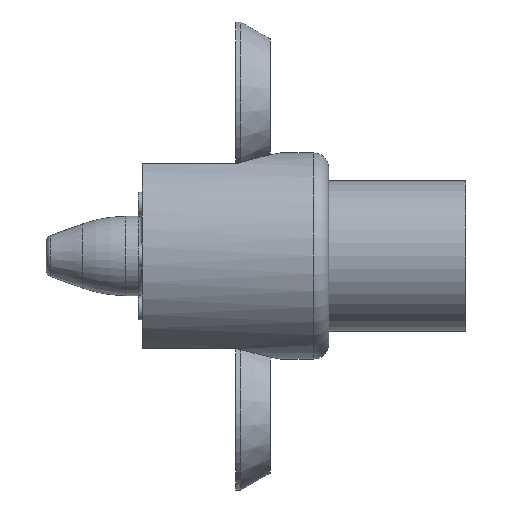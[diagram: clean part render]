
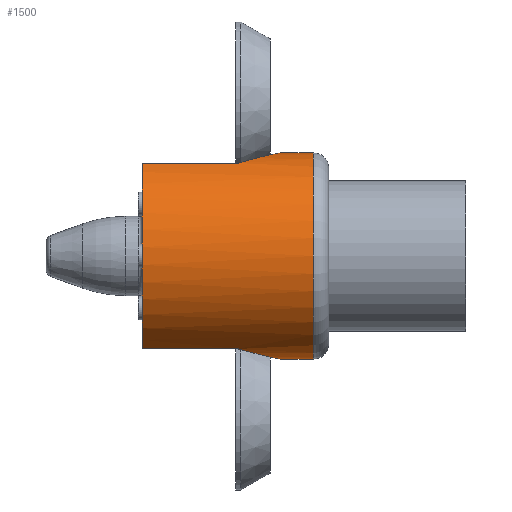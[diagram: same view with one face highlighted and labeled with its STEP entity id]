
A CAD part, left-side view. The second image highlights one B-rep face of the part: STEP entity #1500.
In plain terms, the highlighted cylindrical face has radius 10.319 mm (diameter 20.637 mm), a partial arc.
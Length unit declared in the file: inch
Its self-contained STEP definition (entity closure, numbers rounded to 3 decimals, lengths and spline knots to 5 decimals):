
#14 = CARTESIAN_POINT ( 'NONE',  ( -0.17517, 0.35359, -0.36655 ) ) ;
#20 = EDGE_LOOP ( 'NONE', ( #388, #503, #1455, #76, #413, #920, #1495, #361, #275, #497 ) ) ;
#24 = CARTESIAN_POINT ( 'NONE',  ( -0.17517, 0.35359, 0.36655 ) ) ;
#47 = CARTESIAN_POINT ( 'NONE',  ( 0., 0.18986, 0.40625 ) ) ;
#65 = DIRECTION ( 'NONE',  ( 0., 0., 1. ) ) ;
#76 = ORIENTED_EDGE ( 'NONE', *, *, #1665, .F. ) ;
#82 = CARTESIAN_POINT ( 'NONE',  ( -0.04942, 0.20437, 0.40332 ) ) ;
#85 = CARTESIAN_POINT ( 'NONE',  ( -0.02071, 0.19236, 0.40575 ) ) ;
#92 = CARTESIAN_POINT ( 'NONE',  ( -0.17383, 0.35136, 0.36718 ) ) ;
#98 = CARTESIAN_POINT ( 'NONE',  ( -0.15248, 0.31697, -0.37675 ) ) ;
#115 = CARTESIAN_POINT ( 'NONE',  ( -0.17383, 0.35136, -0.36718 ) ) ;
#130 = DIRECTION ( 'NONE',  ( 0., -1., 0. ) ) ;
#133 = VERTEX_POINT ( 'NONE', #1418 ) ;
#202 = VERTEX_POINT ( 'NONE', #672 ) ;
#209 = AXIS2_PLACEMENT_3D ( 'NONE', #624, #1078, #1092 ) ;
#263 = CARTESIAN_POINT ( 'NONE',  ( -0.08959, 0.23696, -0.39632 ) ) ;
#265 = DIRECTION ( 'NONE',  ( 0., -1., 0. ) ) ;
#275 = ORIENTED_EDGE ( 'NONE', *, *, #697, .T. ) ;
#289 = CARTESIAN_POINT ( 'NONE',  ( -0.17592, 0.35618, 0.36618 ) ) ;
#310 = LINE ( 'NONE', #1237, #1858 ) ;
#361 = ORIENTED_EDGE ( 'NONE', *, *, #1607, .F. ) ;
#367 = CARTESIAN_POINT ( 'NONE',  ( -0.02579, 0.19383, 0.40546 ) ) ;
#368 = CARTESIAN_POINT ( 'NONE',  ( -0.17383, 0.35136, 0.36718 ) ) ;
#388 = ORIENTED_EDGE ( 'NONE', *, *, #1149, .F. ) ;
#396 = CARTESIAN_POINT ( 'NONE',  ( -0.02089, 0.19198, -0.40583 ) ) ;
#402 = CARTESIAN_POINT ( 'NONE',  ( -0.01048, 0.19038, 0.40615 ) ) ;
#403 = CARTESIAN_POINT ( 'NONE',  ( -0.04047, 0.19934, 0.40435 ) ) ;
#413 = ORIENTED_EDGE ( 'NONE', *, *, #1899, .F. ) ;
#418 = CARTESIAN_POINT ( 'NONE',  ( 0., 0.735, 0. ) ) ;
#420 = CARTESIAN_POINT ( 'NONE',  ( -0.17592, 0.735, 0.36618 ) ) ;
#481 = VECTOR ( 'NONE', #130, 39.37008 ) ;
#497 = ORIENTED_EDGE ( 'NONE', *, *, #1654, .T. ) ;
#502 = EDGE_CURVE ( 'NONE', #663, #202, #1208, .T. ) ;
#503 = ORIENTED_EDGE ( 'NONE', *, *, #1846, .F. ) ;
#509 = CARTESIAN_POINT ( 'NONE',  ( -0.12922, 0.28363, 0.38535 ) ) ;
#522 = CARTESIAN_POINT ( 'NONE',  ( -0.16339, 0.33404, 0.37213 ) ) ;
#540 = CARTESIAN_POINT ( 'NONE',  ( -0.17592, 0.35886, 0.36618 ) ) ;
#558 = CARTESIAN_POINT ( 'NONE',  ( -0.17383, 0.35136, -0.36718 ) ) ;
#602 = VERTEX_POINT ( 'NONE', #1602 ) ;
#617 = VERTEX_POINT ( 'NONE', #420 ) ;
#624 = CARTESIAN_POINT ( 'NONE',  ( 0., 0.06, 0. ) ) ;
#626 = VERTEX_POINT ( 'NONE', #540 ) ;
#663 = VERTEX_POINT ( 'NONE', #1011 ) ;
#665 = CARTESIAN_POINT ( 'NONE',  ( -0.11688, 0.26733, 0.38933 ) ) ;
#672 = CARTESIAN_POINT ( 'NONE',  ( -0.17592, 0.735, -0.36618 ) ) ;
#687 = CARTESIAN_POINT ( 'NONE',  ( -0.06668, 0.21626, -0.40083 ) ) ;
#697 = EDGE_CURVE ( 'NONE', #1095, #133, #1260, .T. ) ;
#701 = CARTESIAN_POINT ( 'NONE',  ( -0.07465, 0.22294, -0.3994 ) ) ;
#724 = CARTESIAN_POINT ( 'NONE',  ( 0., 0.735, 0.40625 ) ) ;
#754 = CARTESIAN_POINT ( 'NONE',  ( -0.17592, 0.35618, -0.36618 ) ) ;
#805 = CARTESIAN_POINT ( 'NONE',  ( -0.15247, 0.31696, 0.37676 ) ) ;
#822 = CARTESIAN_POINT ( 'NONE',  ( -0.0894, 0.23676, 0.39637 ) ) ;
#837 = CARTESIAN_POINT ( 'NONE',  ( -0.16339, 0.33405, -0.37212 ) ) ;
#846 = EDGE_CURVE ( 'NONE', #663, #1574, #1603, .T. ) ;
#855 = CARTESIAN_POINT ( 'NONE',  ( 0., 0.735, -0.40625 ) ) ;
#920 = ORIENTED_EDGE ( 'NONE', *, *, #502, .F. ) ;
#943 = B_SPLINE_CURVE_WITH_KNOTS ( 'NONE', 3,
 ( #1838, #24, #289, #1180 ),
 .UNSPECIFIED., .F., .F.,
 ( 4, 4 ),
 ( 0., 0.0002 ),
 .UNSPECIFIED. ) ;
#961 = B_SPLINE_CURVE_WITH_KNOTS ( 'NONE', 3,
 ( #368, #522, #805, #509, #665, #1730, #822, #1869, #971, #82, #403, #367, #85, #402, #1405, #47 ),
 .UNSPECIFIED., .F., .F.,
 ( 4, 2, 2, 2, 2, 2, 2, 4 ),
 ( 0.00011, 0.00169, 0.00327, 0.00406, 0.00485, 0.00565, 0.00604, 0.00644 ),
 .UNSPECIFIED. ) ;
#971 = CARTESIAN_POINT ( 'NONE',  ( -0.06636, 0.21602, 0.40089 ) ) ;
#980 = CARTESIAN_POINT ( 'NONE',  ( 0., 0.735, 0. ) ) ;
#1000 = CARTESIAN_POINT ( 'NONE',  ( -0.12919, 0.28359, -0.38536 ) ) ;
#1011 = CARTESIAN_POINT ( 'NONE',  ( -0.17592, 0.35886, -0.36618 ) ) ;
#1026 = AXIS2_PLACEMENT_3D ( 'NONE', #980, #1119, #65 ) ;
#1068 = EDGE_CURVE ( 'NONE', #1796, #626, #943, .T. ) ;
#1078 = DIRECTION ( 'NONE',  ( 0., 1., 0. ) ) ;
#1081 = CIRCLE ( 'NONE', #1026, 0.40625 ) ;
#1092 = DIRECTION ( 'NONE',  ( 0., 0., 1. ) ) ;
#1095 = VERTEX_POINT ( 'NONE', #1911 ) ;
#1103 = VERTEX_POINT ( 'NONE', #1187 ) ;
#1105 = DIRECTION ( 'NONE',  ( 0., 1., 0. ) ) ;
#1119 = DIRECTION ( 'NONE',  ( 0., 1., 0. ) ) ;
#1149 = EDGE_CURVE ( 'NONE', #602, #1103, #1786, .T. ) ;
#1156 = DIRECTION ( 'NONE',  ( 0., -1., 0. ) ) ;
#1157 = CARTESIAN_POINT ( 'NONE',  ( -0.04957, 0.20445, -0.40331 ) ) ;
#1180 = CARTESIAN_POINT ( 'NONE',  ( -0.17592, 0.35886, 0.36618 ) ) ;
#1184 = FACE_OUTER_BOUND ( 'NONE', #20, .T. ) ;
#1187 = CARTESIAN_POINT ( 'NONE',  ( 0., 0.06, 0.40625 ) ) ;
#1208 = LINE ( 'NONE', #1745, #1666 ) ;
#1217 = CARTESIAN_POINT ( 'NONE',  ( -0.17383, 0.35136, -0.36718 ) ) ;
#1237 = CARTESIAN_POINT ( 'NONE',  ( -0.17592, 0.56827, 0.36618 ) ) ;
#1245 = B_SPLINE_CURVE_WITH_KNOTS ( 'NONE', 3,
 ( #1294, #1614, #396, #1894, #1157, #687, #701, #263, #1311, #1908, #1000, #98, #837, #558 ),
 .UNSPECIFIED., .F., .F.,
 ( 4, 2, 2, 2, 2, 2, 4 ),
 ( 0.00644, 0.00723, 0.00802, 0.00881, 0.0096, 0.01119, 0.01277 ),
 .UNSPECIFIED. ) ;
#1260 = LINE ( 'NONE', #855, #1871 ) ;
#1294 = CARTESIAN_POINT ( 'NONE',  ( 0., 0.18986, -0.40625 ) ) ;
#1309 = DIRECTION ( 'NONE',  ( 0., 0., -1. ) ) ;
#1311 = CARTESIAN_POINT ( 'NONE',  ( -0.09662, 0.24435, -0.39465 ) ) ;
#1405 = CARTESIAN_POINT ( 'NONE',  ( -0.00528, 0.18986, 0.40625 ) ) ;
#1418 = CARTESIAN_POINT ( 'NONE',  ( 0., 0.06, -0.40625 ) ) ;
#1455 = ORIENTED_EDGE ( 'NONE', *, *, #1068, .T. ) ;
#1495 = ORIENTED_EDGE ( 'NONE', *, *, #846, .T. ) ;
#1500 = ADVANCED_FACE ( 'NONE', ( #1184 ), #1673, .T. ) ;
#1547 = DIRECTION ( 'NONE',  ( 0., -1., 0. ) ) ;
#1574 = VERTEX_POINT ( 'NONE', #115 ) ;
#1602 = CARTESIAN_POINT ( 'NONE',  ( 0., 0.18986, 0.40625 ) ) ;
#1603 = B_SPLINE_CURVE_WITH_KNOTS ( 'NONE', 3,
 ( #1664, #754, #14, #1217 ),
 .UNSPECIFIED., .F., .F.,
 ( 4, 4 ),
 ( 0., 0.0002 ),
 .UNSPECIFIED. ) ;
#1607 = EDGE_CURVE ( 'NONE', #1095, #1574, #1245, .T. ) ;
#1614 = CARTESIAN_POINT ( 'NONE',  ( -0.01058, 0.18986, -0.40625 ) ) ;
#1654 = EDGE_CURVE ( 'NONE', #133, #1103, #1775, .T. ) ;
#1664 = CARTESIAN_POINT ( 'NONE',  ( -0.17592, 0.35886, -0.36618 ) ) ;
#1665 = EDGE_CURVE ( 'NONE', #617, #626, #310, .T. ) ;
#1666 = VECTOR ( 'NONE', #1105, 39.37008 ) ;
#1673 = CYLINDRICAL_SURFACE ( 'NONE', #1679, 0.40625 ) ;
#1679 = AXIS2_PLACEMENT_3D ( 'NONE', #418, #1156, #1309 ) ;
#1730 = CARTESIAN_POINT ( 'NONE',  ( -0.09649, 0.2442, 0.39469 ) ) ;
#1745 = CARTESIAN_POINT ( 'NONE',  ( -0.17592, 0.56827, -0.36618 ) ) ;
#1775 = CIRCLE ( 'NONE', #209, 0.40625 ) ;
#1786 = LINE ( 'NONE', #724, #481 ) ;
#1796 = VERTEX_POINT ( 'NONE', #92 ) ;
#1838 = CARTESIAN_POINT ( 'NONE',  ( -0.17383, 0.35136, 0.36718 ) ) ;
#1846 = EDGE_CURVE ( 'NONE', #1796, #602, #961, .T. ) ;
#1858 = VECTOR ( 'NONE', #1547, 39.37008 ) ;
#1869 = CARTESIAN_POINT ( 'NONE',  ( -0.07436, 0.22268, 0.39946 ) ) ;
#1871 = VECTOR ( 'NONE', #265, 39.37008 ) ;
#1894 = CARTESIAN_POINT ( 'NONE',  ( -0.04053, 0.19937, -0.40434 ) ) ;
#1899 = EDGE_CURVE ( 'NONE', #202, #617, #1081, .T. ) ;
#1908 = CARTESIAN_POINT ( 'NONE',  ( -0.11683, 0.26728, -0.38934 ) ) ;
#1911 = CARTESIAN_POINT ( 'NONE',  ( 0., 0.18986, -0.40625 ) ) ;
